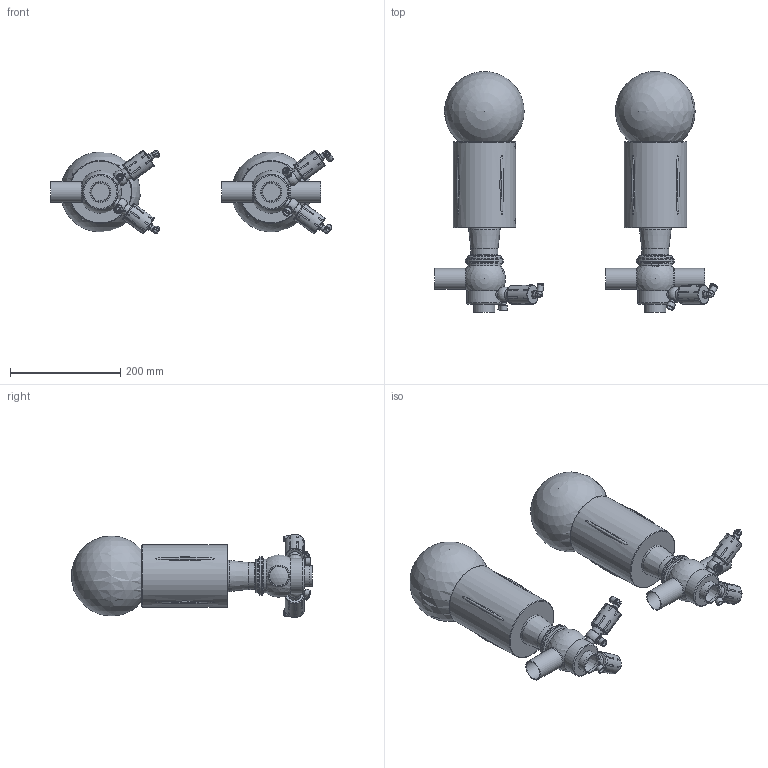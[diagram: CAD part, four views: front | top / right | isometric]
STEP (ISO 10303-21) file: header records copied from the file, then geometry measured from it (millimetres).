
FILE_DESCRIPTION(/* description */ (''),/* implementation_level */ '2;1');
FILE_NAME(/* name */ 'C:\Users\marz-m\Downloads\BZZAW3 3D STEP\BZAW3-DN038.1X1.65-SAL.stp',/* time_stamp */ '2018-09-26T10:51:59+02:00',/* author */ ('marz-m'),/* organization */ (''),/* preprocessor_version */ 'ST-DEVELOPER v17',/* originating_system */ 'Autodesk Inventor 2018',/* authorisation */ '');
FILE_SCHEMA (('AUTOMOTIVE_DESIGN { 1 0 10303 214 3 1 1 }'));
Length unit declared in the file: millimetre
Products named in the file (7): BZAW3-DN038.1X1.65-SAL; TRH5C0112BBA; TRH6C0112BBA; Assemblaggio-DN040; CIL108; SAGOMA-GIOTTO-; Valvolina 3A
Assembly tree (12 placements, depth 2):
  BZAW3-DN038.1X1.65-SAL
    SAGOMA-GIOTTO-  x2
    CIL108  x2
    Assemblaggio-DN040  x2
    TRH5C0112BBA
    TRH6C0112BBA
    Valvolina 3A  x4
Bounding box: 512.28 x 436.47 x 150.84 mm (x, y, z)
Volume: 5001443.7 mm3; surface area: 603234.7 mm2
Topology: 12 solids, 12 shells, 651 faces, 1878 edges, 1331 vertices
Faces by surface type: plane 278, cylinder 198, cone 91, bspline 44, torus 29, sphere 11
Full cylindrical faces by diameter (mm): 2 x8, 6 x16, 7 x4, 8 x4, 8.1 x4, 8.566 x4, 10 x4, 11 x4, 11.5 x4, 12.918 x4, 13.157 x4, 14 x4, 15.9 x4, 16 x4, 20 x4, 22 x4, 32 x2, 34.8 x5, 35 x4, 38.1 x5, 49 x2, 57 x2, 61 x3, 64 x2, 69 x4, 108.5 x2, 114 x2
Entity records: 10592 total; most frequent: CARTESIAN_POINT 3957, DIRECTION 1332, ORIENTED_EDGE 1318, EDGE_CURVE 659, AXIS2_PLACEMENT_3D 565, VERTEX_POINT 481, CIRCLE 317, EDGE_LOOP 278
